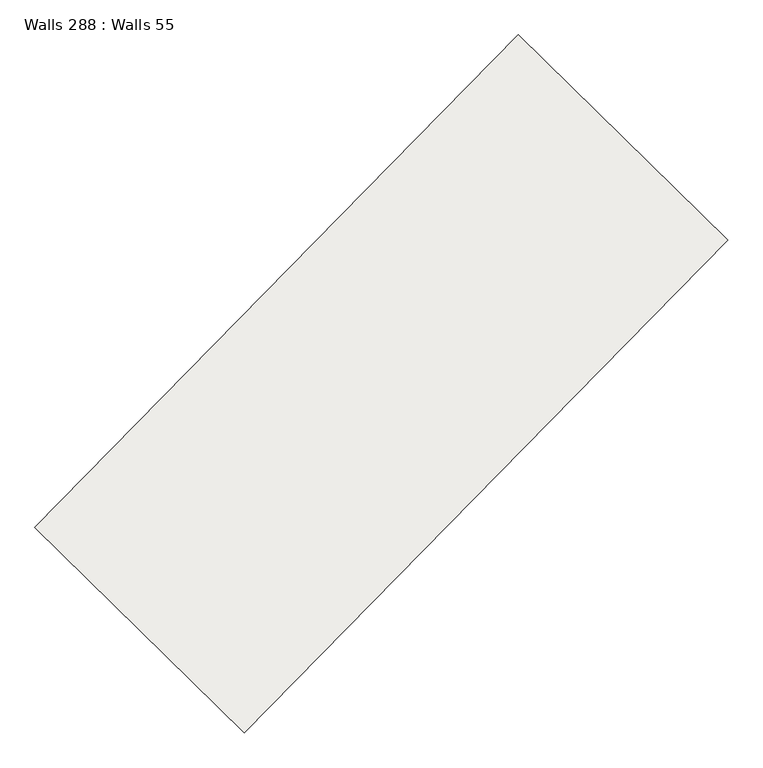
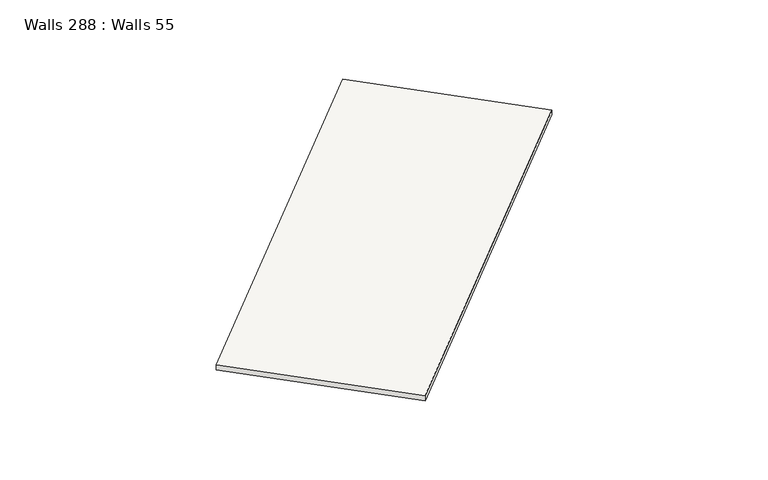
"""IFC4 building model written with IfcOpenShell, lengths in millimetres: slab geometry, Walls 288 : Walls 55."""

from ifc_helpers import new_model, si_unit, frame, origin, place, context, project, spatial, polyline, outline, extrude, source, transform, mapped, element, save


def walls_288_walls_55_935e95ff(model_context):
    return source(origin(), model_context, "Body", "SweptSolid", [
        extrude(outline(polyline([(-50.0, 0.0), (50.0, 0.0), (-40.0, -8700.0000009), (-140.0, -8700.0000009), (-50.0, 0.0)])), frame((-48699.0529418, -208970.1863474, 637340.0), z_axis=(-0.7137361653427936, 0.7004146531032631, 0.0), x_axis=(0.0, 0.0, 1.0)), (0.0, 0.0, 1.0), 3699.999995),
    ])


if __name__ == "__main__":
    model = new_model("IFC4")
    model_context = context("Model", 3, world=origin())
    ifc_project = project(units=[si_unit("LENGTHUNIT", "METRE", prefix="MILLI")], contexts=[model_context])
    site = spatial("IfcSite", under=ifc_project)
    building = spatial("IfcBuilding", under=site)
    placement = place(None, origin())
    walls_288_walls_55_shape = walls_288_walls_55_935e95ff(model_context)
    element("IfcSlab", 1, ObjectType="Walls 288 : Walls 55", at=placement, inside=building, context=model_context, shape_type="MappedRepresentation", body=[
        mapped(walls_288_walls_55_shape, transform((0.0, 0.0, 0.0), x_axis=(1.0, 0.0, 0.0), y_axis=(0.0, 1.0, 0.0), z_axis=(0.0, 0.0, 1.0))),
    ])
    save(model, "model.ifc")
